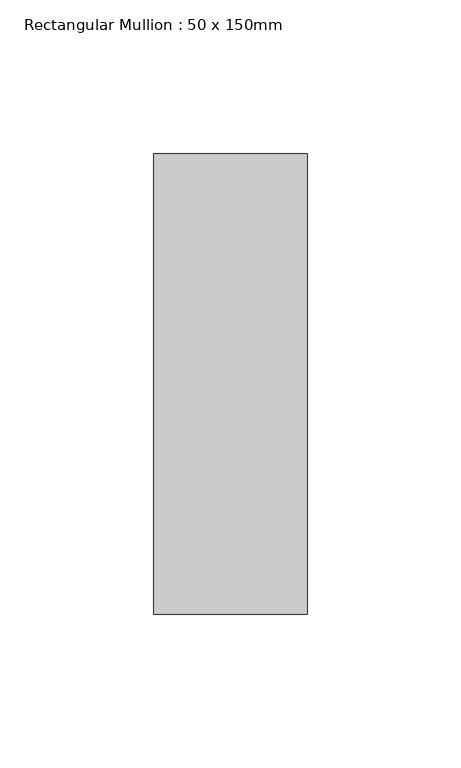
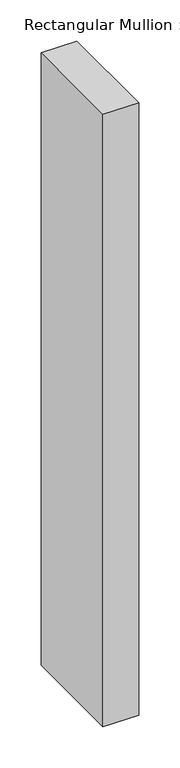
"""IFC4 building model written with IfcOpenShell, lengths in millimetres: member geometry, Rectangular Mullion : 50 x 150mm."""

from ifc_helpers import new_model, si_unit, frame, origin, place, context, project, spatial, polyline, outline, extrude, source, transform, mapped, element, save


def rectangular_mullion_50_x_150mm_22afa1e4(model_context):
    return source(origin(), model_context, "Body", "SweptSolid", [
        extrude(outline(polyline([(0.0, 75.0), (0.0, -75.0), (-50.0, -75.0), (-50.0, 75.0), (0.0, 75.0)])), frame((0.0, 0.0, -908.330789), z_axis=(0.0, 0.0, 1.0), x_axis=(1.0, 0.0, 0.0)), (0.0, 0.0, 1.0), 908.330789),
    ])


if __name__ == "__main__":
    model = new_model("IFC4")
    model_context = context("Model", 3, world=origin())
    ifc_project = project(units=[si_unit("LENGTHUNIT", "METRE", prefix="MILLI")], contexts=[model_context])
    site = spatial("IfcSite", under=ifc_project)
    building = spatial("IfcBuilding", under=site)
    placement = place(None, origin())
    rectangular_mullion_50_x_150mm_shape = rectangular_mullion_50_x_150mm_22afa1e4(model_context)
    element("IfcMember", 1, ObjectType="Rectangular Mullion : 50 x 150mm", at=placement, inside=building, context=model_context, shape_type="MappedRepresentation", body=[
        mapped(rectangular_mullion_50_x_150mm_shape, transform((0.0, 0.0, 0.0), x_axis=(1.0, 0.0, 0.0), y_axis=(0.0, 1.0, 0.0), z_axis=(0.0, 0.0, 1.0))),
    ])
    save(model, "model.ifc")
